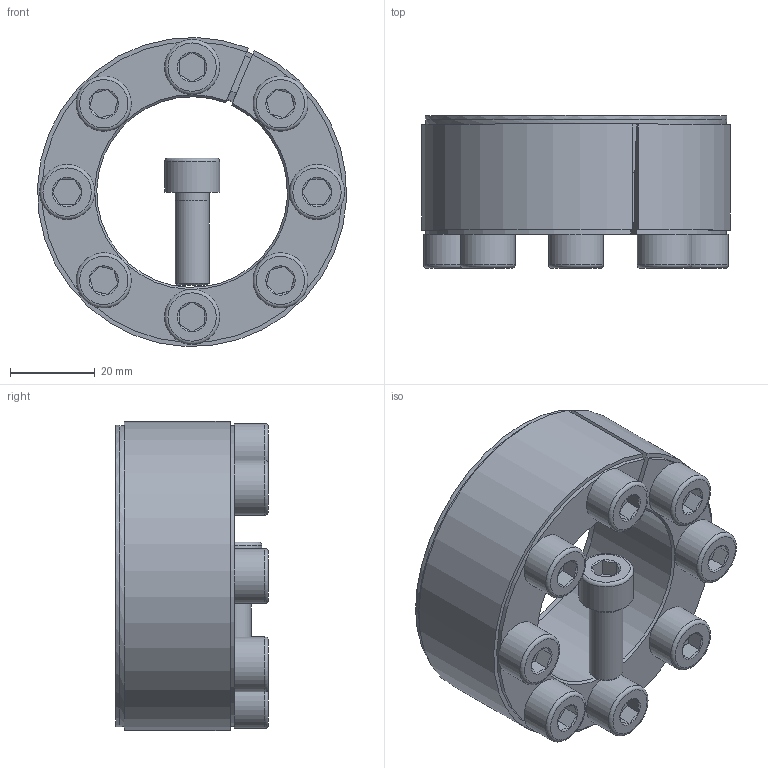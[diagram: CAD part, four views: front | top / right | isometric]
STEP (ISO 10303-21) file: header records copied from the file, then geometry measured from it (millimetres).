
FILE_DESCRIPTION( ( 'Unknown' ), '1' );
FILE_NAME( 'C:/Dokumente und Einstellungen/Sven/Desktop/homepage/cad - homepage/KBS52/KBS 52 - 45 x 73.stp', 'Unknown', ( 'Unknown' ), ( 'Unknown' ), 'XStep 1.0', 'Unknown', ' ' );
FILE_SCHEMA( ( 'automotive_design' ) );
Length unit declared in the file: millimetre
Products named in the file (3): Assem1; KBS 52 - 45 x 73; ISO EN DIN 4762 M8x22
Bounding box: 72.92 x 36 x 72.95 mm (x, y, z)
Volume: 138868.5 mm3; surface area: 52278.5 mm2
Topology: 11 solids, 11 shells, 281 faces, 553 edges, 328 vertices
Faces by surface type: plane 134, cone 69, cylinder 60, torus 18
Full cylindrical faces by diameter (mm): 7 x9, 8 x34, 13 x9, 71.175 x2
Entity records: 1717 total; most frequent: CARTESIAN_POINT 283, DIRECTION 263, ORIENTED_EDGE 196, AXIS2_PLACEMENT_3D 110, EDGE_CURVE 98, EDGE_LOOP 92, VERTEX_POINT 70, FACE_OUTER_BOUND 68
